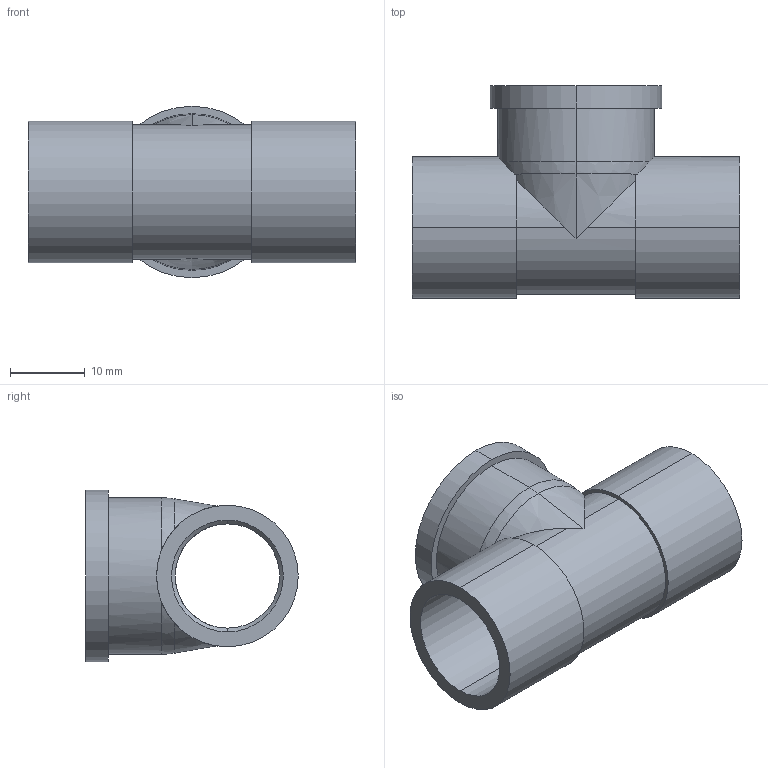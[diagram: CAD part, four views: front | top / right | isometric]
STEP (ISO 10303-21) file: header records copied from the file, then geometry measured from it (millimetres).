
FILE_DESCRIPTION (( 'STEP AP214' ), '1' );
FILE_NAME ('4130 15X8·Ö3X15.STEP', '2014-02-11T01:01:03', ( 'Administrators' ), ( 'JUJUMAO' ), 'SwSTEP 2.0', 'SolidWorks 2008', '' );
FILE_SCHEMA (( 'AUTOMOTIVE_DESIGN' ));
Length unit declared in the file: millimetre
Products named in the file (1): 4130 15X8煦3X15
Bounding box: 44 x 28.5 x 23 mm (x, y, z)
Volume: 6230.9 mm3; surface area: 6547.3 mm2
Topology: 1 solids, 1 shells, 64 faces, 173 edges, 111 vertices
Faces by surface type: cylinder 37, cone 13, plane 8, torus 4, bspline 2
Entity records: 3035 total; most frequent: CARTESIAN_POINT 1522, ORIENTED_EDGE 346, DIRECTION 286, EDGE_CURVE 173, AXIS2_PLACEMENT_3D 119, VERTEX_POINT 111, EDGE_LOOP 68, ADVANCED_FACE 64
